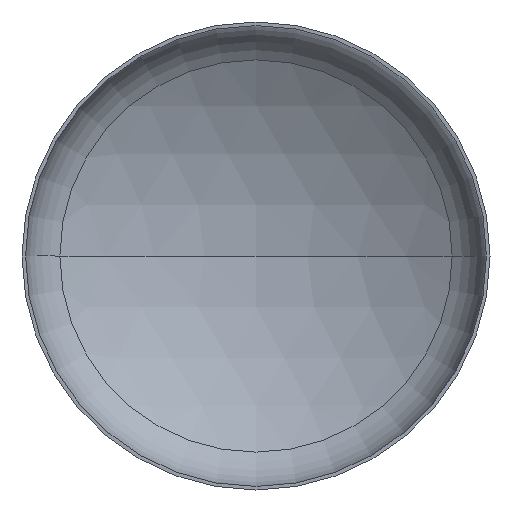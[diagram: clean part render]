
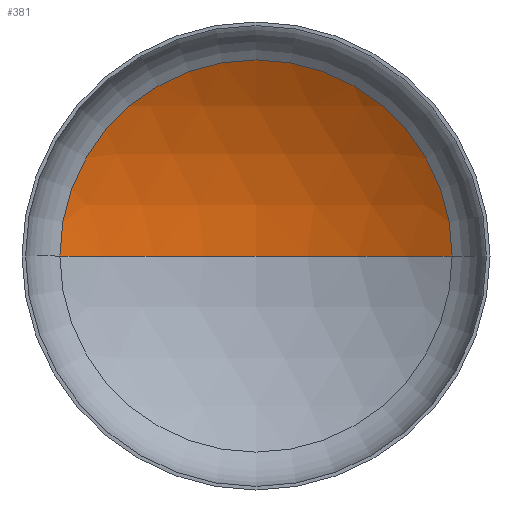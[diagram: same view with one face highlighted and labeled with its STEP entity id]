
A CAD part, front view. The second image highlights one B-rep face of the part: STEP entity #381.
In plain terms, the highlighted spherical face has radius 3040 mm.
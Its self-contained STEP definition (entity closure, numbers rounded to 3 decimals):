
#1 = CARTESIAN_POINT ( 'NONE',  ( 0., -2001.227, 0. ) ) ;
#26 = ORIENTED_EDGE ( 'NONE', *, *, #351, .T. ) ;
#30 = AXIS2_PLACEMENT_3D ( 'NONE', #282, #58, #302 ) ;
#48 = ORIENTED_EDGE ( 'NONE', *, *, #380, .F. ) ;
#50 = SPHERICAL_SURFACE ( 'NONE', #200, 3040. ) ;
#58 = DIRECTION ( 'NONE',  ( 0., -1., 0. ) ) ;
#66 = DIRECTION ( 'NONE',  ( -1., 0., 0. ) ) ;
#89 = VERTEX_POINT ( 'NONE', #171 ) ;
#99 = VERTEX_POINT ( 'NONE', #215 ) ;
#124 = CARTESIAN_POINT ( 'NONE',  ( 0., -2001.227, 0. ) ) ;
#128 = VERTEX_POINT ( 'NONE', #190 ) ;
#132 = AXIS2_PLACEMENT_3D ( 'NONE', #124, #326, #169 ) ;
#151 = EDGE_LOOP ( 'NONE', ( #48, #181, #26 ) ) ;
#163 = CARTESIAN_POINT ( 'NONE',  ( 0., -2001.227, 0. ) ) ;
#169 = DIRECTION ( 'NONE',  ( 1., 0., 0. ) ) ;
#171 = CARTESIAN_POINT ( 'NONE',  ( -1592.44, 588.317, 0. ) ) ;
#177 = AXIS2_PLACEMENT_3D ( 'NONE', #1, #286, #66 ) ;
#181 = ORIENTED_EDGE ( 'NONE', *, *, #386, .T. ) ;
#190 = CARTESIAN_POINT ( 'NONE',  ( 1592.44, 588.317, 0. ) ) ;
#193 = FACE_OUTER_BOUND ( 'NONE', #151, .T. ) ;
#200 = AXIS2_PLACEMENT_3D ( 'NONE', #163, #228, #349 ) ;
#215 = CARTESIAN_POINT ( 'NONE',  ( 0., 1038.773, 0. ) ) ;
#228 = DIRECTION ( 'NONE',  ( 0., 0., -1. ) ) ;
#260 = CIRCLE ( 'NONE', #132, 3040. ) ;
#273 = CIRCLE ( 'NONE', #30, 1592.44 ) ;
#282 = CARTESIAN_POINT ( 'NONE',  ( 0., 588.317, 0. ) ) ;
#286 = DIRECTION ( 'NONE',  ( 0., 0., -1. ) ) ;
#302 = DIRECTION ( 'NONE',  ( 1., 0., 0. ) ) ;
#326 = DIRECTION ( 'NONE',  ( 0., 0., 1. ) ) ;
#349 = DIRECTION ( 'NONE',  ( -1., 0., 0. ) ) ;
#351 = EDGE_CURVE ( 'NONE', #128, #89, #273, .T. ) ;
#374 = CIRCLE ( 'NONE', #177, 3040. ) ;
#380 = EDGE_CURVE ( 'NONE', #99, #89, #260, .T. ) ;
#381 = ADVANCED_FACE ( 'NONE', ( #193 ), #50, .F. ) ;
#386 = EDGE_CURVE ( 'NONE', #99, #128, #374, .T. ) ;
